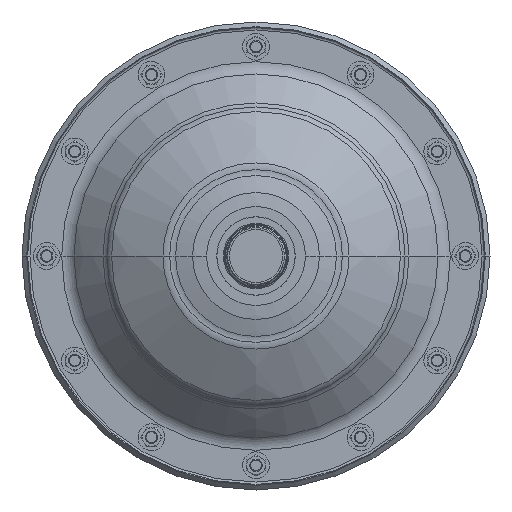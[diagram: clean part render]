
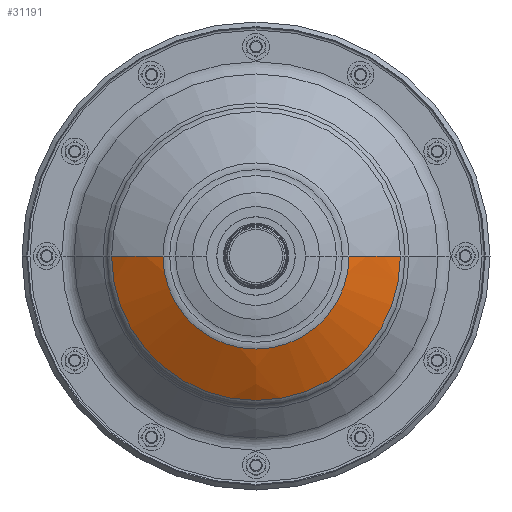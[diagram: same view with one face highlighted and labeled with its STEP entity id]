
A CAD part, front view. The second image highlights one B-rep face of the part: STEP entity #31191.
In plain terms, the highlighted free-form (B-spline) face has degree [3, 3] with [7, 4] control points.
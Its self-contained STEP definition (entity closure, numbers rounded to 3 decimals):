
#2095 = CARTESIAN_POINT ( 'NONE',  ( -2.406, -1.992, -3.909 ) ) ;
#2364 = CARTESIAN_POINT ( 'NONE',  ( -1.718, -2.5, -2.791 ) ) ;
#2910 = CARTESIAN_POINT ( 'NONE',  ( -2.786, -2.5, 0.175 ) ) ;
#3509 = CARTESIAN_POINT ( 'NONE',  ( 2.824, -2.487, 0. ) ) ;
#3642 = VERTEX_POINT ( 'NONE', #3509 ) ;
#5363 = DIRECTION ( 'NONE',  ( 0., 1., 0. ) ) ;
#7047 = CARTESIAN_POINT ( 'NONE',  ( 2.406, -1.992, -3.909 ) ) ;
#7558 = EDGE_LOOP ( 'NONE', ( #23106, #38309, #52998, #32017 ) ) ;
#9387 = CARTESIAN_POINT ( 'NONE',  ( -0.27, 4.159, 0. ) ) ;
#11168 = CARTESIAN_POINT ( 'NONE',  ( 4.571, -1.634, -2.432 ) ) ;
#11426 = CARTESIAN_POINT ( 'NONE',  ( 2.786, -2.5, 0.175 ) ) ;
#13793 = DIRECTION ( 'NONE',  ( 0.359, -0.933, 0. ) ) ;
#14274 = EDGE_CURVE ( 'NONE', #17013, #35613, #21215, .T. ) ;
#14874 = CARTESIAN_POINT ( 'NONE',  ( 0., -1.655, 0. ) ) ;
#15028 = CARTESIAN_POINT ( 'NONE',  ( -2.894, -2.5, -1.539 ) ) ;
#15302 = CARTESIAN_POINT ( 'NONE',  ( 3.36, -2.282, 0.211 ) ) ;
#17013 = VERTEX_POINT ( 'NONE', #31419 ) ;
#17248 = DIRECTION ( 'NONE',  ( 1., 0., 0. ) ) ;
#17945 = DIRECTION ( 'NONE',  ( 0., 0., -1. ) ) ;
#19481 = CARTESIAN_POINT ( 'NONE',  ( 2.072, -2.282, -3.367 ) ) ;
#19786 = EDGE_CURVE ( 'NONE', #28350, #17013, #27773, .T. ) ;
#20031 = CARTESIAN_POINT ( 'NONE',  ( 2.714, -1.634, -4.41 ) ) ;
#21215 = CIRCLE ( 'NONE', #44149, 4.381 ) ;
#23102 = CARTESIAN_POINT ( 'NONE',  ( -2.072, -2.282, -3.367 ) ) ;
#23106 = ORIENTED_EDGE ( 'NONE', *, *, #19786, .T. ) ;
#23217 = DIRECTION ( 'NONE',  ( -1., 0., 0. ) ) ;
#23366 = CARTESIAN_POINT ( 'NONE',  ( 3.49, -2.282, -1.856 ) ) ;
#26015 = AXIS2_PLACEMENT_3D ( 'NONE', #43202, #5363, #17248 ) ;
#26258 =( BOUNDED_SURFACE ( )  B_SPLINE_SURFACE ( 3, 3, ( 
 ( #11426, #15302, #52877, #53715 ),
 ( #44342, #23366, #44879, #11168 ),
 ( #27778, #19481, #7047, #20031 ),
 ( #28310, #40206, #31921, #53442 ),
 ( #2364, #23102, #2095, #44617 ),
 ( #15028, #40467, #32201, #48754 ),
 ( #2910, #41014, #49031, #36343 ) ),
 .UNSPECIFIED., .F., .F., .T. ) 
 B_SPLINE_SURFACE_WITH_KNOTS ( ( 4, 3, 4 ),
 ( 4, 4 ),
 ( 0., 1., 2. ),
 ( 0., 1. ),
 .UNSPECIFIED. ) 
 GEOMETRIC_REPRESENTATION_ITEM ( )  RATIONAL_B_SPLINE_SURFACE ( (
 ( 1.192, 1.186, 1.186, 1.192),
 ( 0.942, 0.936, 0.936, 0.942),
 ( 0.942, 0.936, 0.936, 0.942),
 ( 1.192, 1.186, 1.186, 1.192),
 ( 0.942, 0.936, 0.936, 0.942),
 ( 0.942, 0.936, 0.936, 0.942),
 ( 1.192, 1.186, 1.186, 1.192) ) ) 
 REPRESENTATION_ITEM ( '' )  SURFACE ( )  );
#27773 = CIRCLE ( 'NONE', #46298, 7.12 ) ;
#27778 = CARTESIAN_POINT ( 'NONE',  ( 1.718, -2.5, -2.791 ) ) ;
#28310 = CARTESIAN_POINT ( 'NONE',  ( 0., -2.5, -2.791 ) ) ;
#28350 = VERTEX_POINT ( 'NONE', #32691 ) ;
#31191 = ADVANCED_FACE ( 'NONE', ( #49298 ), #26258, .T. ) ;
#31419 = CARTESIAN_POINT ( 'NONE',  ( -4.381, -1.655, 0. ) ) ;
#31921 = CARTESIAN_POINT ( 'NONE',  ( 0., -1.992, -3.909 ) ) ;
#32017 = ORIENTED_EDGE ( 'NONE', *, *, #52501, .T. ) ;
#32201 = CARTESIAN_POINT ( 'NONE',  ( -4.052, -1.992, -2.155 ) ) ;
#32691 = CARTESIAN_POINT ( 'NONE',  ( -2.824, -2.487, 0. ) ) ;
#34345 = AXIS2_PLACEMENT_3D ( 'NONE', #46697, #43373, #13793 ) ;
#35613 = VERTEX_POINT ( 'NONE', #46038 ) ;
#35914 = DIRECTION ( 'NONE',  ( 0., -1., 0. ) ) ;
#36343 = CARTESIAN_POINT ( 'NONE',  ( -4.401, -1.634, 0.277 ) ) ;
#38309 = ORIENTED_EDGE ( 'NONE', *, *, #14274, .T. ) ;
#38694 = DIRECTION ( 'NONE',  ( -0.359, -0.933, 0. ) ) ;
#38702 = EDGE_CURVE ( 'NONE', #3642, #35613, #40523, .T. ) ;
#40206 = CARTESIAN_POINT ( 'NONE',  ( 0., -2.282, -3.367 ) ) ;
#40467 = CARTESIAN_POINT ( 'NONE',  ( -3.49, -2.282, -1.856 ) ) ;
#40523 = CIRCLE ( 'NONE', #34345, 7.12 ) ;
#41014 = CARTESIAN_POINT ( 'NONE',  ( -3.36, -2.282, 0.211 ) ) ;
#43202 = CARTESIAN_POINT ( 'NONE',  ( 0., -2.487, 0. ) ) ;
#43373 = DIRECTION ( 'NONE',  ( 0., 0., 1. ) ) ;
#44149 = AXIS2_PLACEMENT_3D ( 'NONE', #14874, #35914, #23217 ) ;
#44342 = CARTESIAN_POINT ( 'NONE',  ( 2.894, -2.5, -1.539 ) ) ;
#44617 = CARTESIAN_POINT ( 'NONE',  ( -2.714, -1.634, -4.41 ) ) ;
#44879 = CARTESIAN_POINT ( 'NONE',  ( 4.052, -1.992, -2.155 ) ) ;
#46038 = CARTESIAN_POINT ( 'NONE',  ( 4.381, -1.655, 0. ) ) ;
#46298 = AXIS2_PLACEMENT_3D ( 'NONE', #9387, #17945, #38694 ) ;
#46697 = CARTESIAN_POINT ( 'NONE',  ( 0.27, 4.159, 0. ) ) ;
#48754 = CARTESIAN_POINT ( 'NONE',  ( -4.571, -1.634, -2.432 ) ) ;
#49031 = CARTESIAN_POINT ( 'NONE',  ( -3.901, -1.992, 0.245 ) ) ;
#49298 = FACE_OUTER_BOUND ( 'NONE', #7558, .T. ) ;
#49808 = CIRCLE ( 'NONE', #26015, 2.824 ) ;
#52501 = EDGE_CURVE ( 'NONE', #3642, #28350, #49808, .T. ) ;
#52877 = CARTESIAN_POINT ( 'NONE',  ( 3.901, -1.992, 0.245 ) ) ;
#52998 = ORIENTED_EDGE ( 'NONE', *, *, #38702, .F. ) ;
#53442 = CARTESIAN_POINT ( 'NONE',  ( 0., -1.634, -4.41 ) ) ;
#53715 = CARTESIAN_POINT ( 'NONE',  ( 4.401, -1.634, 0.277 ) ) ;
